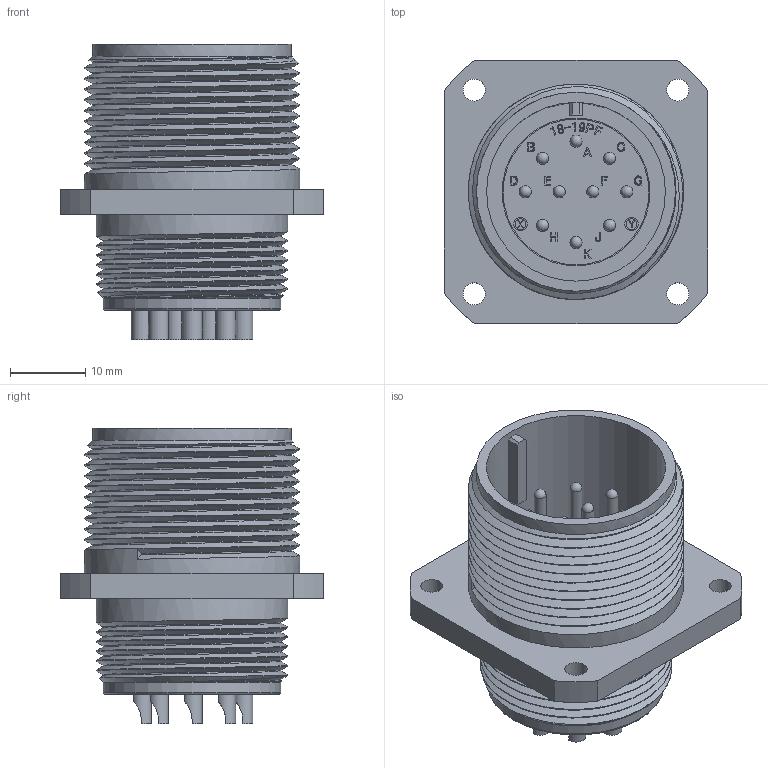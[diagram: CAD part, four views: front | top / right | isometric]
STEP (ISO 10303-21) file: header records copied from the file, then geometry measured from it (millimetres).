
FILE_DESCRIPTION (( 'STEP AP203' ), '1' );
FILE_NAME ('DMS3100A18-19P(D263).STEP', '2022-01-30T23:59:14', ( '' ), ( '' ), 'SwSTEP 2.0', 'SolidWorks 2018', '' );
FILE_SCHEMA (( 'CONFIG_CONTROL_DESIGN' ));
Length unit declared in the file: millimetre
Products named in the file (1): DMS3100A18-19P(D263)
Bounding box: 34.92 x 34.92 x 39.2 mm (x, y, z)
Volume: 11727.5 mm3; surface area: 10388.9 mm2
Topology: 1 solids, 1 shells, 890 faces, 2362 edges, 1550 vertices
Faces by surface type: plane 458, bspline 274, cylinder 127, torus 19, sphere 10, cone 2
Full cylindrical faces by diameter (mm): 1.4 x2, 1.59 x10, 1.8 x2, 2.93 x4, 17.45 x1, 19.33 x1, 19.59 x1, 21.08 x1, 23.5 x1, 23.68 x1, 25.36 x6, 26.35 x1, 28.53 x10
Entity records: 36856 total; most frequent: CARTESIAN_POINT 17250, ORIENTED_EDGE 4496, DIRECTION 3046, EDGE_CURVE 2248, VERTEX_POINT 1502, LINE 1424, VECTOR 1424, EDGE_LOOP 1008
